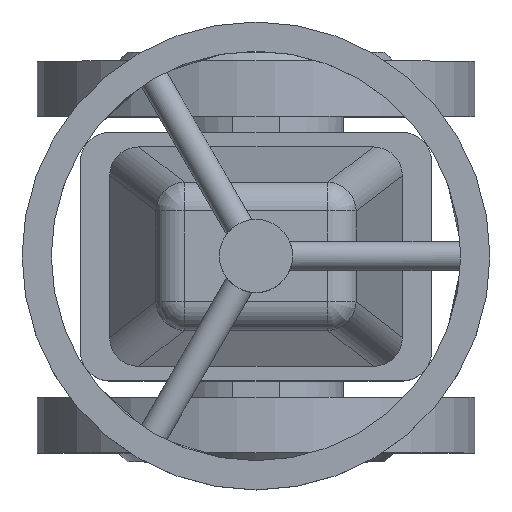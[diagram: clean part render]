
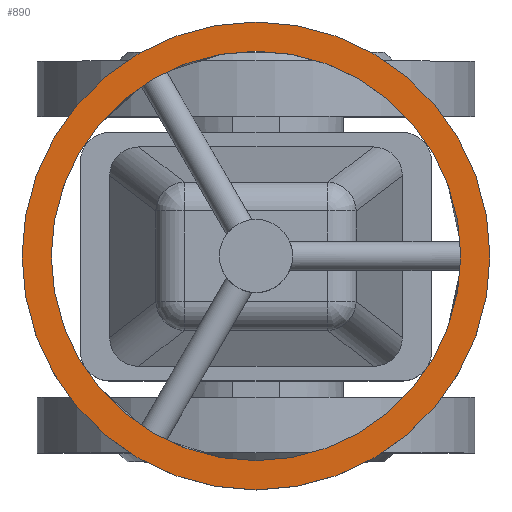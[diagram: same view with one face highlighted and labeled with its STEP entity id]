
A CAD part, top view. The second image highlights one B-rep face of the part: STEP entity #890.
In plain terms, the highlighted planar face has unit normal (0, 0, 1).
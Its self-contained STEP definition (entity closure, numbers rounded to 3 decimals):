
#890=ADVANCED_FACE('',(#1922,#1924),#1926,.T.);
#1922=FACE_BOUND('',#1923,.T.);
#1923=EDGE_LOOP('',(#2419));
#1924=FACE_BOUND('',#1925,.T.);
#1925=EDGE_LOOP('',(#2420));
#1926=PLANE('',#1927);
#1927=AXIS2_PLACEMENT_3D('',#1928,#1929,#1930);
#1928=CARTESIAN_POINT('',(0.,0.,237.5));
#1929=DIRECTION('',(0.,0.,1.));
#1930=DIRECTION('',(0.,-1.,0.));
#2419=ORIENTED_EDGE('',*,*,#2661,.T.);
#2420=ORIENTED_EDGE('',*,*,#2659,.T.);
#2659=EDGE_CURVE('',#3057,#3057,#3058,.F.);
#2661=EDGE_CURVE('',#3061,#3061,#3062,.T.);
#3057=VERTEX_POINT('',#5381);
#3058=CIRCLE('',#5382,70.);
#3061=VERTEX_POINT('',#5391);
#3062=CIRCLE('',#5392,80.);
#5381=CARTESIAN_POINT('',(0.,-70.,237.5));
#5382=AXIS2_PLACEMENT_3D('',#5383,#5384,#5385);
#5383=CARTESIAN_POINT('',(0.,0.,237.5));
#5384=DIRECTION('',(0.,0.,1.));
#5385=DIRECTION('',(0.,-1.,0.));
#5391=CARTESIAN_POINT('',(0.,-80.,237.5));
#5392=AXIS2_PLACEMENT_3D('',#5393,#5394,#5395);
#5393=CARTESIAN_POINT('',(0.,0.,237.5));
#5394=DIRECTION('',(0.,0.,1.));
#5395=DIRECTION('',(0.,-1.,0.));
